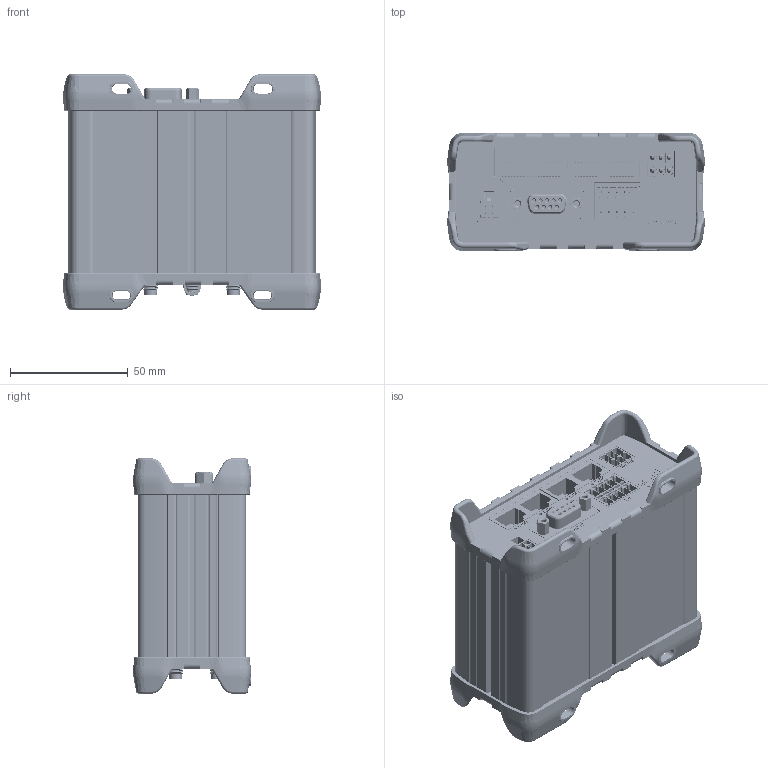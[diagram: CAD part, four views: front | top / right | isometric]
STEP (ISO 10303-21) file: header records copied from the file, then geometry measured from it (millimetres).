
FILE_DESCRIPTION (( 'STEP AP214' ), '1' );
FILE_NAME ('RUT955_SMT_assembly.STEP', '2019-03-04T14:45:34', ( '' ), ( '' ), 'SwSTEP 2.0', 'SolidWorks 2019', '' );
FILE_SCHEMA (( 'AUTOMOTIVE_DESIGN' ));
Length unit declared in the file: millimetre
Products named in the file (9): RUT955_panel_rear_R955DRP004_v4; RUT9XX_QUECTEL_09_dummy; RUT955_SMT_assembly; sim_needle; RUT955_panel_front_R955DFP002_v2_updated_2019_02_11; RUT9XX_MAIN_17_dummy; DIN7982_2_9x13_0_7982    49,5-mattssons; RUT9xx_korpusas_R9XXDHS008_v8; SIM_stalciukas
Assembly tree (12 placements, depth 2):
  RUT955_SMT_assembly
    RUT9xx_korpusas_R9XXDHS008_v8
    RUT9XX_QUECTEL_09_dummy
    RUT955_panel_front_R955DFP002_v2_updated_2019_02_11
    DIN7982_2_9x13_0_7982    49,5-mattssons  x4
    sim_needle
    RUT955_panel_rear_R955DRP004_v4
    SIM_stalciukas  x2
    RUT9XX_MAIN_17_dummy
Bounding box: 109.61 x 50.11 x 100.1 mm (x, y, z)
Volume: 108769.4 mm3; surface area: 156308.5 mm2
Topology: 22 solids, 111 shells, 15194 faces, 40636 edges, 25810 vertices
Faces by surface type: plane 9364, cylinder 2851, bspline 1875, cone 494, torus 474, sphere 136
Entity records: 649413 total; most frequent: CARTESIAN_POINT 180400, ORIENTED_EDGE 78192, DIRECTION 63636, EDGE_CURVE 39139, LINE 26804, VECTOR 26804, VERTEX_POINT 25047, AXIS2_PLACEMENT_3D 18416
